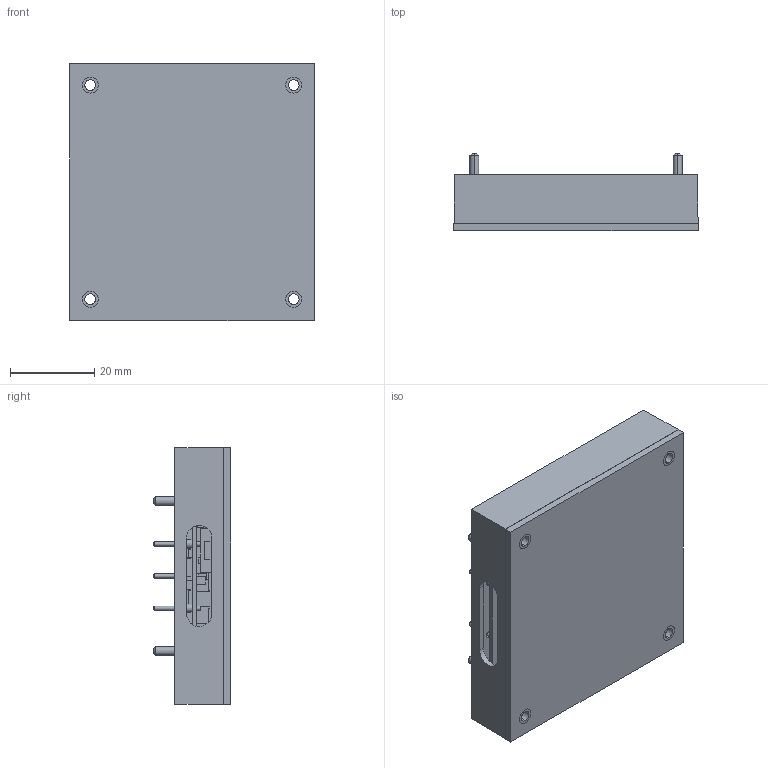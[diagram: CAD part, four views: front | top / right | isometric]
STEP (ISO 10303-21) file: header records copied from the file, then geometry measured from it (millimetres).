
FILE_DESCRIPTION (( 'STEP AP203' ), '1' );
FILE_NAME ('CHB150W.STEP', '2017-06-02T06:35:22', ( 'cincon' ), ( '' ), 'SwSTEP 2.0', 'SolidWorks 2017', '' );
FILE_SCHEMA (( 'CONFIG_CONTROL_DESIGN' ));
Length unit declared in the file: millimetre
Products named in the file (6): CHB350銅柱; 上板; CHB150W-48S12N; CHB150W; CHB150W CASE HB-6 (M-C425-00-M)G5117110012; 底板
Assembly tree (8 placements, depth 3):
  CHB150W
    CHB150W CASE HB-6 (M-C425-00-M)G5117110012
    CHB150W-48S12N
      底板
      CHB350銅柱  x4
      上板
Bounding box: 57.92 x 18.42 x 61.02 mm (x, y, z)
Volume: 24062.4 mm3; surface area: 30363.1 mm2
Topology: 7 solids, 7 shells, 858 faces, 2155 edges, 1414 vertices
Faces by surface type: plane 586, cylinder 188, cone 84
Entity records: 25311 total; most frequent: CARTESIAN_POINT 4277, DIRECTION 4145, ORIENTED_EDGE 4142, EDGE_CURVE 2071, LINE 1641, VECTOR 1641, VERTEX_POINT 1360, AXIS2_PLACEMENT_3D 1252
